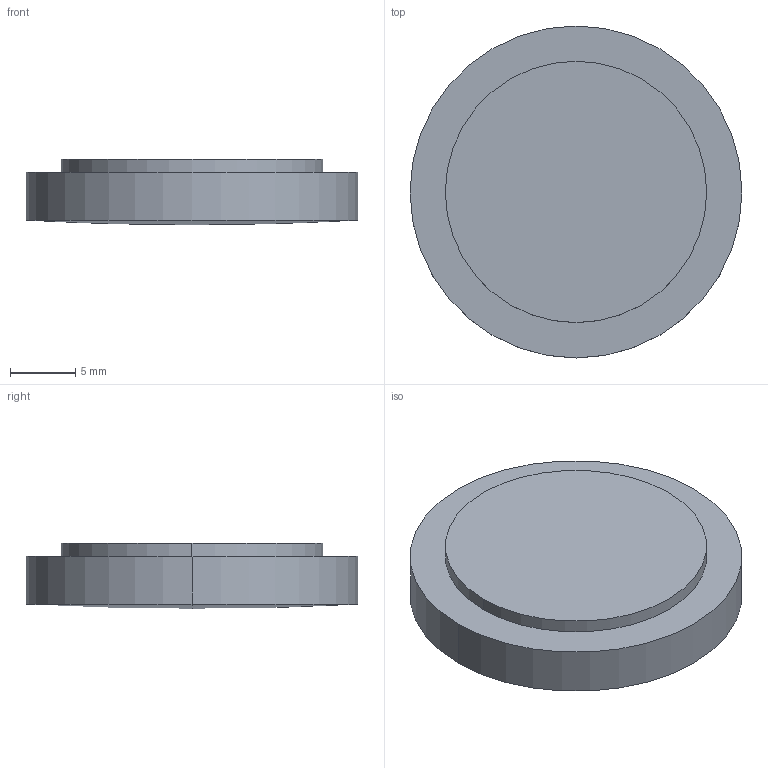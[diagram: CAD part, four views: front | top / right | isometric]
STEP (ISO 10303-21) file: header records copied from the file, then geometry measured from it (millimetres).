
FILE_DESCRIPTION(('STEP AP214'),'1');
FILE_NAME('LLG-25-80.STEP','2020-03-09T17:41:34',(' '),(' '),'Spatial InterOp 3D',' ',' ');
FILE_SCHEMA(('AUTOMOTIVE_DESIGN { 1 0 10303 214 1 1 1 1 }'));
Length unit declared in the file: millimetre
Products named in the file (1): 1
Bounding box: 25.4 x 25.4 x 5 mm (x, y, z)
Volume: 2254.2 mm3; surface area: 1996.8 mm2
Topology: 2 solids, 2 shells, 9 faces, 16 edges, 9 vertices
Faces by surface type: cylinder 4, plane 3, sphere 2
Entity records: 229 total; most frequent: DIRECTION 46, CARTESIAN_POINT 34, ORIENTED_EDGE 28, AXIS2_PLACEMENT_3D 21, EDGE_CURVE 14, CIRCLE 10, ADVANCED_FACE 9, FACE_OUTER_BOUND 9
